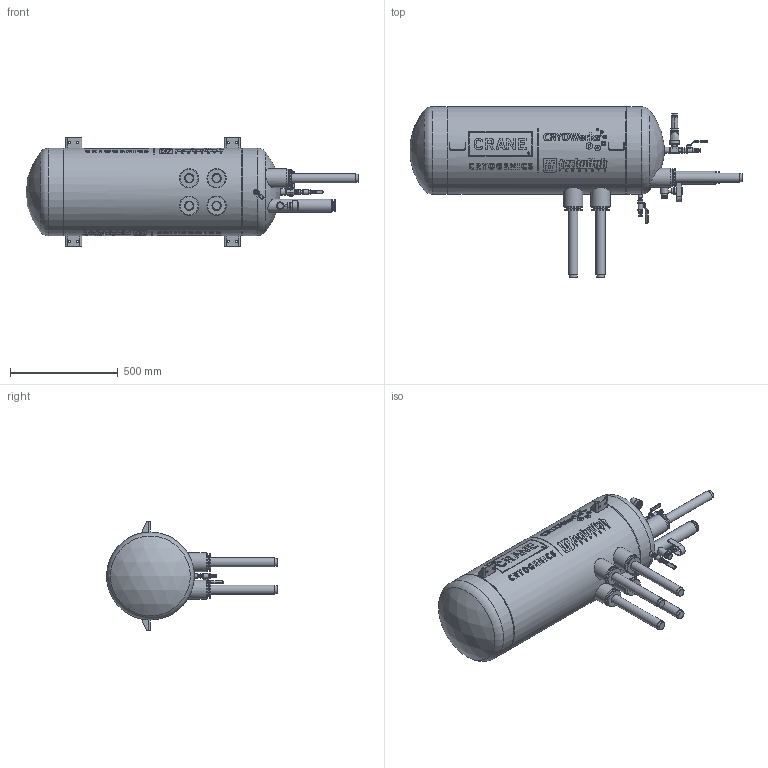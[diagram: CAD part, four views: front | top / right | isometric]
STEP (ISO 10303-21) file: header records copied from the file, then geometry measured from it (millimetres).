
FILE_DESCRIPTION (( 'STEP AP203' ), '1' );
FILE_NAME ('CA01750.step', '2025-12-17T20:03:01', ( '' ), ( '' ), 'SwSTEP 2.0', 'SolidWorks 2023', '' );
FILE_SCHEMA (( 'CONFIG_CONTROL_DESIGN' ));
Length unit declared in the file: inch
Products named in the file (1): CA01750
Bounding box: 1539.51 x 792.16 x 508 mm (x, y, z)
Volume: 148585264.1 mm3; surface area: 2237283.3 mm2
Topology: 1 solids, 13 shells, 2439 faces, 6155 edges, 3965 vertices
Faces by surface type: plane 1133, cylinder 620, cone 441, bspline 202, torus 29, sphere 14
Full cylindrical faces by diameter (mm): 4.182 x2, 4.581 x2, 4.75 x2, 4.775 x1, 4.977 x2, 5.527 x14, 5.71 x2, 6.221 x14, 6.272 x4, 6.35 x6, 6.446 x2, 7.112 x1, 7.722 x2, 7.976 x2, 8.307 x2, 8.598 x2, 9.188 x2, 9.246 x3, 9.322 x2, 9.525 x8, 9.544 x2, 9.842 x2, 10.171 x2, 10.262 x1, 10.661 x2, 11.112 x6, 11.225 x2, 12.494 x2, 12.7 x1, 12.804 x2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
Entity records: 171513 total; most frequent: CARTESIAN_POINT 119521, ORIENTED_EDGE 11178, DIRECTION 9423, EDGE_CURVE 5589, VERTEX_POINT 3789, AXIS2_PLACEMENT_3D 3584, EDGE_LOOP 3120, FACE_OUTER_BOUND 2631
